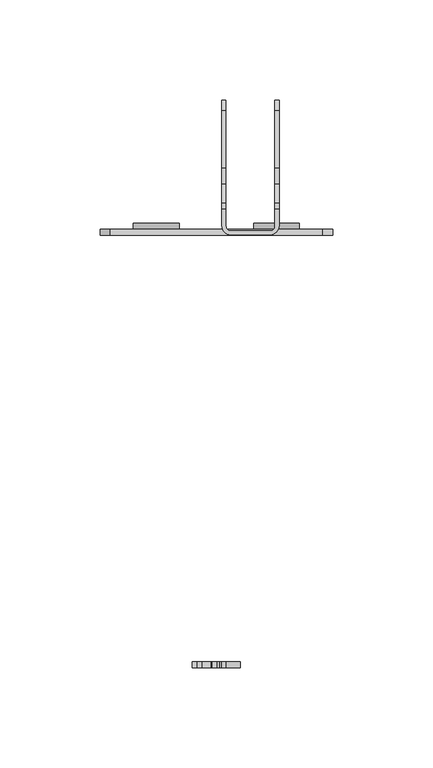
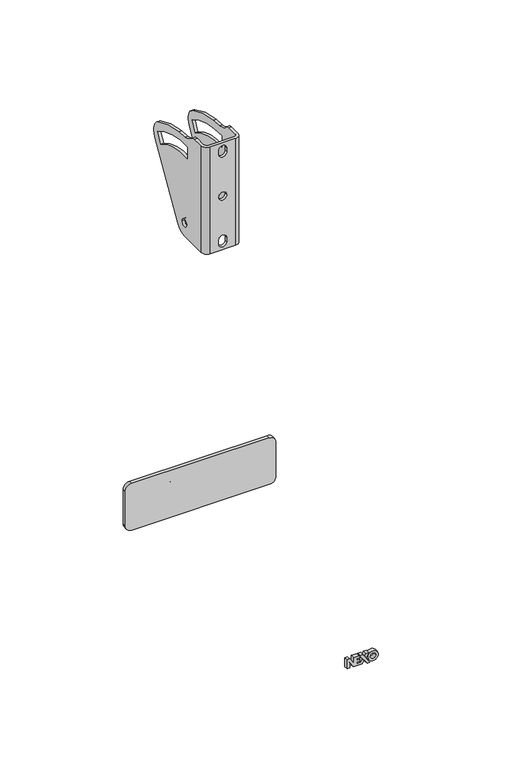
"""IFC4 building model written with IfcOpenShell, lengths in millimetres: proxy geometry."""

from ifc_helpers import new_model, si_unit, point, frame, frame_2d, origin, place, context, project, spatial, polyline, circle_curve, trimmed, segment, composite_curve, outline, extrude, source, transform, mapped, element, save
from ifc_brep_helpers import plane_surface, cylinder_surface, revolved_surface, advanced_brep


def generic_models_a4b86c65(model_context):
    return source(origin(), model_context, "Body", "SolidModel", [
        advanced_brep(
        [(14.25, -87.7767512, 46.1064927), (12.25, -87.7767512, 46.1064927), (12.25, -90.3716849, 47.0), (14.25, -90.3902878, 47.0), (-12.25, -87.7767512, 46.1064927), (-14.25, -87.7767512, 46.1064927), (-14.25, -90.3716849, 47.0), (-12.25, -90.3902878, 47.0), (14.25, -78.1254974, 41.1889332), (12.25, -78.1254974, 41.1889332), (-12.25, -78.1254974, 41.1889332), (-14.25, -78.1254974, 41.1889332), (14.25, -70.2644375, 40.7606486), (12.25, -70.2644375, 40.7606486), (-12.25, -70.2644375, 40.7606486), (-14.25, -70.2644375, 40.7606486), (14.25, -41.518081, 31.4203912), (12.25, -41.518081, 31.4203912), (-12.25, -41.518081, 31.4203912), (-14.25, -41.518081, 31.4203912), (14.25, -36.3035006, 23.4663297), (12.25, -36.3035006, 23.4663297), (-12.25, -36.3035006, 23.4663297), (-14.25, -36.3035006, 23.4663297), (14.25, -37.6729327, 17.0148555), (12.25, -37.6729327, 17.0148555), (12.25, -36.3035006, 21.1548402), (14.25, -36.3035006, 21.1548402), (-12.25, -37.6729327, 17.0148555), (-14.25, -37.6729327, 17.0148555), (-14.25, -36.3035006, 21.1548402), (-12.25, -36.3035006, 21.1548402), (14.25, -67.9331802, -34.7955433), (12.25, -67.9331802, -34.7955433), (-12.25, -67.9331802, -34.7955433), (-14.25, -67.9331802, -34.7955433), (14.25, -77.0, -40.0), (12.25, -77.0, -40.0), (-12.25, -77.0, -40.0), (-14.25, -77.0, -40.0), (12.25, -80.0, -29.5), (14.25, -80.0, -29.5), (14.25, -74.0, -29.5), (12.25, -74.0, -29.5), (-14.25, -80.0, -29.5), (-12.25, -80.0, -29.5), (-12.25, -74.0, -29.5), (-14.25, -74.0, -29.5), (-14.25, -99.0, 47.0), (-9.75, -103.5, 47.0), (9.75, -103.5, 47.0), (14.25, -99.0, 47.0), (12.25, -99.0, 47.0), (9.75, -101.5, 47.0), (-9.75, -101.5, 47.0), (-12.25, -99.0, 47.0), (-12.25, -99.0, -40.0), (-9.75, -101.5, -40.0), (9.75, -101.5, -40.0), (12.25, -99.0, -40.0), (14.25, -99.0, -40.0), (9.75, -103.5, -40.0), (-9.75, -103.5, -40.0), (-14.25, -99.0, -40.0), (-3.1, -103.5, 41.6), (3.1, -103.5, 41.6), (3.1, -103.5, 38.5), (-3.1, -103.5, 38.5), (3.1, -103.5, -31.4906202), (3.1, -103.5, -34.5906202), (-3.1, -103.5, -34.5906202), (-3.1, -103.5, -31.4906202), (3.1, -103.5, 3.4898915), (-3.1, -103.5, 3.4898915), (14.25, -36.2397525, 22.278058), (14.25, -41.2927077, 23.7144233), (14.25, -45.8031363, 15.9021317), (14.25, -81.0, 25.3556682), (14.25, -81.0, 34.55), (12.25, -36.3035006, 22.278058), (12.25, -45.8031363, 15.9021317), (12.25, -41.2927077, 23.7144233), (12.25, -81.0, 34.55), (12.25, -81.0, 25.3556682), (3.1, -101.5, 41.6), (-3.1, -101.5, 41.6), (-3.1, -101.5, 38.5), (3.1, -101.5, 38.5), (3.1, -101.5, -34.5906202), (3.1, -101.5, -31.4906202), (-3.1, -101.5, -31.4906202), (-3.1, -101.5, -34.5906202), (-3.1, -101.5, 3.4898915), (3.1, -101.5, 3.4898915), (-12.25, -36.2397525, 22.278058), (-12.25, -41.2927077, 23.7144233), (-12.25, -45.8031363, 15.9021317), (-12.25, -81.0, 25.3556682), (-12.25, -81.0, 34.55), (-14.25, -36.3035006, 22.278058), (-14.25, -45.8031363, 15.9021317), (-14.25, -41.2927077, 23.7144233), (-14.25, -81.0, 34.55), (-14.25, -81.0, 25.3556682)],
        [
            (0, 1),
            (1, 2, circle_curve(frame((12.25, -90.3809864, 42.7581156), z_axis=(1.0, 0.0, 0.0), x_axis=(0.0, 1.0, 0.0)), 4.2418946)),
            (2, 3),
            (3, 0, circle_curve(frame((14.25, -90.3809864, 42.7581156), z_axis=(-1.0, 0.0, 0.0), x_axis=(0.0, 1.0, 0.0)), 4.2418946)),
            (4, 5),
            (5, 6, circle_curve(frame((-14.25, -90.3809864, 42.7581156), z_axis=(1.0, 0.0, 0.0), x_axis=(0.0, 1.0, 0.0)), 4.2418946)),
            (6, 7),
            (7, 4, circle_curve(frame((-12.25, -90.3809864, 42.7581156), z_axis=(-1.0, 0.0, 0.0), x_axis=(0.0, 1.0, 0.0)), 4.2418946)),
            (0, 8, circle_curve(frame((14.25, -76.3075404, 56.6864806), z_axis=(1.0, 0.0, 0.0), x_axis=(0.0, 1.0, 0.0)), 15.6038118)),
            (8, 9),
            (9, 1, circle_curve(frame((12.25, -76.3075404, 56.6864806), z_axis=(-1.0, 0.0, 0.0), x_axis=(0.0, 1.0, 0.0)), 15.6038118)),
            (4, 10, circle_curve(frame((-12.25, -76.3075404, 56.6864806), z_axis=(1.0, 0.0, 0.0), x_axis=(0.0, 1.0, 0.0)), 15.6038118)),
            (10, 11),
            (11, 5, circle_curve(frame((-14.25, -76.3075404, 56.6864806), z_axis=(-1.0, 0.0, 0.0), x_axis=(0.0, 1.0, 0.0)), 15.6038118)),
            (8, 12),
            (12, 13),
            (13, 9),
            (10, 14),
            (14, 15),
            (15, 11),
            (12, 16, circle_curve(frame((14.25, -78.2021031, -32.5751969), z_axis=(-1.0, 0.0, 0.0), x_axis=(0.0, 1.0, 0.0)), 73.7641699)),
            (16, 17),
            (17, 13, circle_curve(frame((12.25, -78.2021031, -32.5751969), z_axis=(1.0, 0.0, 0.0), x_axis=(0.0, 1.0, 0.0)), 73.7641699)),
            (14, 18, circle_curve(frame((-12.25, -78.2021031, -32.5751969), z_axis=(-1.0, 0.0, 0.0), x_axis=(0.0, 1.0, 0.0)), 73.7641699)),
            (18, 19),
            (19, 15, circle_curve(frame((-14.25, -78.2021031, -32.5751969), z_axis=(1.0, 0.0, 0.0), x_axis=(0.0, 1.0, 0.0)), 73.7641699)),
            (16, 20, circle_curve(frame((14.25, -46.7400712, 22.3105849), z_axis=(-1.0, 0.0, 0.0), x_axis=(0.0, 1.0, 0.0)), 10.5003691)),
            (20, 21),
            (21, 17, circle_curve(frame((12.25, -46.7400712, 22.3105849), z_axis=(1.0, 0.0, 0.0), x_axis=(0.0, 1.0, 0.0)), 10.5003691)),
            (18, 22, circle_curve(frame((-12.25, -46.7400712, 22.3105849), z_axis=(-1.0, 0.0, 0.0), x_axis=(0.0, 1.0, 0.0)), 10.5003691)),
            (22, 23),
            (23, 19, circle_curve(frame((-14.25, -46.7400712, 22.3105849), z_axis=(1.0, 0.0, 0.0), x_axis=(0.0, 1.0, 0.0)), 10.5003691)),
            (24, 25),
            (25, 26, circle_curve(frame((12.25, -46.7400712, 22.3105849), z_axis=(1.0, 0.0, 0.0), x_axis=(0.0, 1.0, 0.0)), 10.5003691)),
            (26, 27),
            (27, 24, circle_curve(frame((14.25, -46.7400712, 22.3105849), z_axis=(-1.0, 0.0, 0.0), x_axis=(0.0, 1.0, 0.0)), 10.5003691)),
            (28, 29),
            (29, 30, circle_curve(frame((-14.25, -46.7400712, 22.3105849), z_axis=(1.0, 0.0, 0.0), x_axis=(0.0, 1.0, 0.0)), 10.5003691)),
            (30, 31),
            (31, 28, circle_curve(frame((-12.25, -46.7400712, 22.3105849), z_axis=(-1.0, 0.0, 0.0), x_axis=(0.0, 1.0, 0.0)), 10.5003691)),
            (24, 32),
            (32, 33),
            (33, 25),
            (28, 34),
            (34, 35),
            (35, 29),
            (32, 36, circle_curve(frame((14.25, -77.0, -29.5), z_axis=(-1.0, 0.0, 0.0), x_axis=(0.0, 1.0, 0.0)), 10.5)),
            (36, 37),
            (37, 33, circle_curve(frame((12.25, -77.0, -29.5), z_axis=(1.0, 0.0, 0.0), x_axis=(0.0, 1.0, 0.0)), 10.5)),
            (34, 38, circle_curve(frame((-12.25, -77.0, -29.5), z_axis=(-1.0, 0.0, 0.0), x_axis=(0.0, 1.0, 0.0)), 10.5)),
            (38, 39),
            (39, 35, circle_curve(frame((-14.25, -77.0, -29.5), z_axis=(1.0, 0.0, 0.0), x_axis=(0.0, 1.0, 0.0)), 10.5)),
            (40, 41),
            (41, 42, circle_curve(frame((14.25, -77.0, -29.5), z_axis=(1.0, 0.0, 0.0), x_axis=(0.0, 1.0, 0.0)), 3.0)),
            (42, 43),
            (43, 40, circle_curve(frame((12.25, -77.0, -29.5), z_axis=(-1.0, 0.0, 0.0), x_axis=(0.0, 1.0, 0.0)), 3.0)),
            (44, 45),
            (45, 46, circle_curve(frame((-12.25, -77.0, -29.5), z_axis=(1.0, 0.0, 0.0), x_axis=(0.0, 1.0, 0.0)), 3.0)),
            (46, 47),
            (47, 44, circle_curve(frame((-14.25, -77.0, -29.5), z_axis=(-1.0, 0.0, 0.0), x_axis=(0.0, 1.0, 0.0)), 3.0)),
            (40, 43, circle_curve(frame((12.25, -77.0, -29.5), z_axis=(-1.0, 0.0, 0.0), x_axis=(0.0, 1.0, 0.0)), 3.0)),
            (42, 41, circle_curve(frame((14.25, -77.0, -29.5), z_axis=(1.0, 0.0, 0.0), x_axis=(0.0, 1.0, 0.0)), 3.0)),
            (44, 47, circle_curve(frame((-14.25, -77.0, -29.5), z_axis=(-1.0, 0.0, 0.0), x_axis=(0.0, 1.0, 0.0)), 3.0)),
            (46, 45, circle_curve(frame((-12.25, -77.0, -29.5), z_axis=(1.0, 0.0, 0.0), x_axis=(0.0, 1.0, 0.0)), 3.0)),
            (48, 49, circle_curve(frame((-9.75, -99.0, 47.0), z_axis=(0.0, 0.0, 1.0), x_axis=(1.0, 0.0, 0.0)), 4.5)),
            (49, 50),
            (50, 51, circle_curve(frame((9.75, -99.0, 47.0), z_axis=(0.0, 0.0, 1.0), x_axis=(1.0, 0.0, 0.0)), 4.5)),
            (51, 3),
            (2, 52),
            (52, 53, circle_curve(frame((9.75, -99.0, 47.0), z_axis=(0.0, 0.0, -1.0), x_axis=(1.0, 0.0, 0.0)), 2.5)),
            (53, 54),
            (54, 55, circle_curve(frame((-9.75, -99.0, 47.0), z_axis=(0.0, 0.0, -1.0), x_axis=(1.0, 0.0, 0.0)), 2.5)),
            (55, 7),
            (6, 48),
            (56, 57, circle_curve(frame((-9.75, -99.0, -40.0), z_axis=(0.0, 0.0, 1.0), x_axis=(1.0, 0.0, 0.0)), 2.5)),
            (57, 58),
            (58, 59, circle_curve(frame((9.75, -99.0, -40.0), z_axis=(0.0, 0.0, 1.0), x_axis=(1.0, 0.0, 0.0)), 2.5)),
            (59, 37),
            (36, 60),
            (60, 61, circle_curve(frame((9.75, -99.0, -40.0), z_axis=(0.0, 0.0, -1.0), x_axis=(1.0, 0.0, 0.0)), 4.5)),
            (61, 62),
            (62, 63, circle_curve(frame((-9.75, -99.0, -40.0), z_axis=(0.0, 0.0, -1.0), x_axis=(1.0, 0.0, 0.0)), 4.5)),
            (63, 39),
            (38, 56),
            (49, 62),
            (61, 50),
            (64, 65, circle_curve(frame((0.0, -103.5, 41.6), z_axis=(0.0, 1.0, 0.0), x_axis=(1.0, 0.0, 0.0)), 3.1)),
            (65, 66),
            (66, 67, circle_curve(frame((0.0, -103.5, 38.5), z_axis=(0.0, 1.0, 0.0), x_axis=(1.0, 0.0, 0.0)), 3.1)),
            (67, 64),
            (68, 69),
            (69, 70, circle_curve(frame((0.0, -103.5, -34.5906202), z_axis=(0.0, 1.0, 0.0), x_axis=(1.0, 0.0, 0.0)), 3.1)),
            (70, 71),
            (71, 68, circle_curve(frame((0.0, -103.5, -31.4906202), z_axis=(0.0, 1.0, 0.0), x_axis=(1.0, 0.0, 0.0)), 3.1)),
            (72, 73, circle_curve(frame((0.0, -103.5, 3.4898915), z_axis=(0.0, 1.0, 0.0), x_axis=(1.0, 0.0, 0.0)), 3.1)),
            (73, 72, circle_curve(frame((0.0, -103.5, 3.4898915), z_axis=(0.0, 1.0, 0.0), x_axis=(1.0, 0.0, 0.0)), 3.1)),
            (51, 60),
            (27, 74),
            (74, 20),
            (75, 76),
            (76, 77, circle_curve(frame((14.25, -77.0093909, -30.0349635), z_axis=(1.0, 0.0, 0.0), x_axis=(0.0, 1.0, 0.0)), 55.5341971)),
            (77, 78),
            (78, 75, circle_curve(frame((14.25, -77.6772538, -31.4457619), z_axis=(-1.0, 0.0, 0.0), x_axis=(0.0, 1.0, 0.0)), 66.0793555)),
            (26, 79),
            (79, 21),
            (59, 52),
            (80, 81),
            (81, 82, circle_curve(frame((12.25, -77.6772538, -31.4457619), z_axis=(1.0, 0.0, 0.0), x_axis=(0.0, 1.0, 0.0)), 66.0793555)),
            (82, 83),
            (83, 80, circle_curve(frame((12.25, -77.0093909, -30.0349635), z_axis=(-1.0, 0.0, 0.0), x_axis=(0.0, 1.0, 0.0)), 55.5341971)),
            (53, 58),
            (57, 54),
            (84, 85, circle_curve(frame((0.0, -101.5, 41.6), z_axis=(0.0, -1.0, 0.0), x_axis=(1.0, 0.0, 0.0)), 3.1)),
            (85, 86),
            (86, 87, circle_curve(frame((0.0, -101.5, 38.5), z_axis=(0.0, -1.0, 0.0), x_axis=(1.0, 0.0, 0.0)), 3.1)),
            (87, 84),
            (88, 89),
            (89, 90, circle_curve(frame((0.0, -101.5, -31.4906202), z_axis=(0.0, -1.0, 0.0), x_axis=(1.0, 0.0, 0.0)), 3.1)),
            (90, 91),
            (91, 88, circle_curve(frame((0.0, -101.5, -34.5906202), z_axis=(0.0, -1.0, 0.0), x_axis=(1.0, 0.0, 0.0)), 3.1)),
            (92, 93, circle_curve(frame((0.0, -101.5, 3.4898915), z_axis=(0.0, -1.0, 0.0), x_axis=(1.0, 0.0, 0.0)), 3.1)),
            (93, 92, circle_curve(frame((0.0, -101.5, 3.4898915), z_axis=(0.0, -1.0, 0.0), x_axis=(1.0, 0.0, 0.0)), 3.1)),
            (55, 56),
            (31, 94),
            (94, 22),
            (95, 96),
            (96, 97, circle_curve(frame((-12.25, -77.0093909, -30.0349635), z_axis=(1.0, 0.0, 0.0), x_axis=(0.0, 1.0, 0.0)), 55.5341971)),
            (97, 98),
            (98, 95, circle_curve(frame((-12.25, -77.6772538, -31.4457619), z_axis=(-1.0, 0.0, 0.0), x_axis=(0.0, 1.0, 0.0)), 66.0793555)),
            (30, 99),
            (99, 23),
            (63, 48),
            (100, 101),
            (101, 102, circle_curve(frame((-14.25, -77.6772538, -31.4457619), z_axis=(1.0, 0.0, 0.0), x_axis=(0.0, 1.0, 0.0)), 66.0793555)),
            (102, 103),
            (103, 100, circle_curve(frame((-14.25, -77.0093909, -30.0349635), z_axis=(-1.0, 0.0, 0.0), x_axis=(0.0, 1.0, 0.0)), 55.5341971)),
            (84, 65),
            (64, 85),
            (67, 86),
            (66, 87),
            (88, 69),
            (68, 89),
            (71, 90),
            (70, 91),
            (92, 73),
            (72, 93),
            (80, 76),
            (75, 81),
            (100, 96),
            (95, 101),
            (78, 82),
            (98, 102),
            (77, 83),
            (97, 103),
        ],
        [
            cylinder_surface(frame((-20.0, -90.3809864, 42.7581156), z_axis=(-1.0, 0.0, 0.0), x_axis=(0.0, 1.0, 0.0)), 4.2418946),
            revolved_surface(polyline([(14.25, -60.70372859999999, 56.6864806), (12.25, -60.70372859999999, 56.6864806)]), (-20.0, -76.3075404, 56.6864806), (1.0, 0.0, 0.0)),
            revolved_surface(polyline([(-12.25, -60.70372859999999, 56.6864806), (-14.25, -60.70372859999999, 56.6864806)]), (-20.0, -76.3075404, 56.6864806), (1.0, 0.0, 0.0)),
            plane_surface(frame((20.0, -78.1254974, 41.1889332), z_axis=(0.0, 0.05440111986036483, 0.9985191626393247), x_axis=(-1.0, 0.0, 0.0))),
            cylinder_surface(frame((-20.0, -78.2021031, -32.5751969), z_axis=(-1.0, 0.0, 0.0), x_axis=(0.0, 1.0, 0.0)), 73.7641699),
            cylinder_surface(frame((-20.0, -46.7400712, 22.3105849), z_axis=(-1.0, 0.0, 0.0), x_axis=(0.0, 1.0, 0.0)), 10.5003691),
            plane_surface(frame((20.0, -37.6729327, 17.0148555), z_axis=(0.0, 0.8635066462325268, -0.504337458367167), x_axis=(-1.0, 0.0, 0.0))),
            cylinder_surface(frame((-20.0, -77.0, -29.5), z_axis=(-1.0, 0.0, 0.0), x_axis=(0.0, 1.0, 0.0)), 10.5),
            revolved_surface(polyline([(14.25, -74.0, -29.5), (12.25, -74.0, -29.5)]), (0.0, -77.0, -29.5), (1.0, 0.0, 0.0)),
            revolved_surface(polyline([(-12.25, -74.0, -29.5), (-14.25, -74.0, -29.5)]), (0.0, -77.0, -29.5), (1.0, 0.0, 0.0)),
            plane_surface(frame((-5.25, -99.0, 47.0), z_axis=(0.0, 0.0, 1.0), x_axis=(0.0, 1.0, 0.0))),
            plane_surface(frame((-5.25, -99.0, -40.0), z_axis=(0.0, 0.0, -1.0), x_axis=(0.0, -1.0, 0.0))),
            plane_surface(frame((-9.75, -103.5, 47.0), z_axis=(0.0, -1.0, 0.0), x_axis=(0.0, 0.0, -1.0))),
            plane_surface(frame((14.25, -99.0, 47.0), z_axis=(1.0, 0.0, 0.0), x_axis=(0.0, 0.0, -1.0))),
            plane_surface(frame((14.25, -36.3035006, 47.0), z_axis=(0.0, 1.0, 0.0), x_axis=(0.0, 0.0, -1.0))),
            plane_surface(frame((12.25, -36.3035006, 47.0), z_axis=(-1.0, 0.0, 0.0), x_axis=(0.0, 0.0, -1.0))),
            plane_surface(frame((9.75, -101.5, 47.0), z_axis=(0.0, 1.0, 0.0), x_axis=(0.0, 0.0, -1.0))),
            plane_surface(frame((-12.25, -99.0, 47.0), z_axis=(1.0, 0.0, 0.0), x_axis=(0.0, 0.0, -1.0))),
            plane_surface(frame((-12.25, -36.3035006, 47.0), z_axis=(0.0, 1.0, 0.0), x_axis=(0.0, 0.0, -1.0))),
            plane_surface(frame((-14.25, -36.3035006, 47.0), z_axis=(-1.0, 0.0, 0.0), x_axis=(0.0, 0.0, -1.0))),
            revolved_surface(polyline([(3.1, -103.5, 41.6), (3.1, -101.5, 41.6)]), (0.0, 0.0, 41.6), (0.0, -1.0, 0.0)),
            plane_surface(frame((-3.1, -103.5, 41.6), z_axis=(1.0, 0.0, 0.0), x_axis=(0.0, 1.0, 0.0))),
            revolved_surface(polyline([(3.1, -103.5, 38.5), (3.1, -101.5, 38.5)]), (0.0, 0.0, 38.5), (0.0, -1.0, 0.0)),
            plane_surface(frame((3.1, -103.5, 38.5), z_axis=(-1.0, 0.0, 0.0), x_axis=(0.0, 1.0, 0.0))),
            plane_surface(frame((3.1, -103.5, -34.5906202), z_axis=(-1.0, 0.0, 0.0), x_axis=(0.0, 1.0, 0.0))),
            revolved_surface(polyline([(3.1, -103.5, -31.4906202), (3.1, -101.5, -31.4906202)]), (0.0, 0.0, -31.4906202), (0.0, -1.0, 0.0)),
            plane_surface(frame((-3.1, -103.5, -31.4906202), z_axis=(1.0, 0.0, 0.0), x_axis=(0.0, 1.0, 0.0))),
            revolved_surface(polyline([(3.1, -103.5, -34.5906202), (3.1, -101.5, -34.5906202)]), (0.0, 0.0, -34.5906202), (0.0, -1.0, 0.0)),
            revolved_surface(polyline([(3.1, -103.5, 3.4898915), (3.1, -101.5, 3.4898915)]), (0.0, 0.0, 3.4898915), (0.0, -1.0, 0.0)),
            cylinder_surface(frame((-9.75, -99.0, -40.0), z_axis=(0.0, 0.0, 1.0), x_axis=(1.0, 0.0, 0.0)), 4.5),
            cylinder_surface(frame((9.75, -99.0, -40.0), z_axis=(0.0, 0.0, 1.0), x_axis=(1.0, 0.0, 0.0)), 4.5),
            revolved_surface(polyline([(12.25, -99.0, -40.0), (12.25, -99.0, 47.0)]), (9.75, -99.0, -40.0), (0.0, 0.0, -1.0)),
            revolved_surface(polyline([(-7.25, -99.0, -40.0), (-7.25, -99.0, 47.0)]), (-9.75, -99.0, -40.0), (0.0, 0.0, -1.0)),
            plane_surface(frame((20.0, -45.8031363, 15.9021317), z_axis=(0.0, -0.8660254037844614, 0.499999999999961), x_axis=(-1.0, 0.0, 0.0))),
            revolved_surface(polyline([(14.25, -11.597898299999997, -31.4457619), (12.25, -11.597898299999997, -31.4457619)]), (0.0, -77.6772538, -31.4457619), (1.0, 0.0, 0.0)),
            revolved_surface(polyline([(-12.25, -11.597898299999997, -31.4457619), (-14.25, -11.597898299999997, -31.4457619)]), (0.0, -77.6772538, -31.4457619), (1.0, 0.0, 0.0)),
            plane_surface(frame((20.0, -81.0, 34.55), z_axis=(0.0, 1.0, 0.0), x_axis=(-1.0, 0.0, 0.0))),
            cylinder_surface(frame((0.0, -77.0093909, -30.0349635), z_axis=(-1.0, 0.0, 0.0), x_axis=(0.0, 1.0, 0.0)), 55.5341971),
        ],
        [
            (0, [[1, 2, 3, 4]]),
            (0, [[5, 6, 7, 8]]),
            (1, [[-1, 9, 10, 11]]),
            (2, [[-5, 12, 13, 14]]),
            (3, [[-10, 15, 16, 17]]),
            (3, [[-13, 18, 19, 20]]),
            (4, [[-16, 21, 22, 23]]),
            (4, [[-19, 24, 25, 26]]),
            (5, [[-22, 27, 28, 29]]),
            (5, [[-25, 30, 31, 32]]),
            (5, [[33, 34, 35, 36]]),
            (5, [[37, 38, 39, 40]]),
            (6, [[-33, 41, 42, 43]]),
            (6, [[-37, 44, 45, 46]]),
            (7, [[-42, 47, 48, 49]]),
            (7, [[-45, 50, 51, 52]]),
            (8, [[53, 54, 55, 56]]),
            (9, [[57, 58, 59, 60]]),
            (8, [[-53, 61, -55, 62]]),
            (9, [[-57, 63, -59, 64]]),
            (10, [[65, 66, 67, 68, -3, 69, 70, 71, 72, 73, -7, 74]]),
            (11, [[75, 76, 77, 78, -48, 79, 80, 81, 82, 83, -51, 84]]),
            (12, [[-66, 85, -81, 86], [87, 88, 89, 90], [91, 92, 93, 94], [95, 96]]),
            (13, [[97, -79, -47, -41, -36, 98, 99, -27, -21, -15, -9, -4, -68], [-54, -62], [100, 101, 102, 103]]),
            (14, [[-98, -35, 104, 105, -28, -99]]),
            (15, [[106, -69, -2, -11, -17, -23, -29, -105, -104, -34, -43, -49, -78], [-56, -61], [107, 108, 109, 110]]),
            (16, [[-71, 111, -76, 112], [113, 114, 115, 116], [117, 118, 119, 120], [121, 122]]),
            (17, [[123, -84, -50, -44, -40, 124, 125, -30, -24, -18, -12, -8, -73], [-58, -64], [126, 127, 128, 129]]),
            (18, [[-124, -39, 130, 131, -31, -125]]),
            (19, [[132, -74, -6, -14, -20, -26, -32, -131, -130, -38, -46, -52, -83], [-60, -63], [133, 134, 135, 136]]),
            (20, [[137, -87, 138, -113]]),
            (21, [[-138, -90, 139, -114]]),
            (22, [[-139, -89, 140, -115]]),
            (23, [[-137, -116, -140, -88]]),
            (24, [[141, -91, 142, -117]]),
            (25, [[-142, -94, 143, -118]]),
            (26, [[-143, -93, 144, -119]]),
            (27, [[-141, -120, -144, -92]]),
            (28, [[145, -95, 146, -121]]),
            (28, [[-145, -122, -146, -96]]),
            (29, [[-65, -132, -82, -85]]),
            (30, [[-67, -86, -80, -97]]),
            (31, [[-70, -106, -77, -111]]),
            (32, [[-72, -112, -75, -123]]),
            (33, [[147, -100, 148, -107]]),
            (33, [[149, -126, 150, -133]]),
            (34, [[-148, -103, 151, -108]]),
            (35, [[-150, -129, 152, -134]]),
            (36, [[-151, -102, 153, -109]]),
            (36, [[-152, -128, 154, -135]]),
            (37, [[-147, -110, -153, -101]]),
            (37, [[-149, -136, -154, -127]]),
        ],
    ),
        extrude(outline(composite_curve([segment(trimmed(circle_curve(frame_2d((-236.6908532, -8.9250368)), 3.9406238), [point((-236.6908532, -12.8656607))], [point((-236.6908532, -4.984413))], False, "CARTESIAN"), True, "CONTINUOUS"), segment(trimmed(circle_curve(frame_2d((-236.6908532, -8.9250368)), 3.9406238), [point((-236.6908532, -4.984413))], [point((-236.6908532, -12.8656607))], False, "CARTESIAN"), True, "CONTINUOUS")], self_intersect=False), holes=[composite_curve([segment(trimmed(circle_curve(frame_2d((-236.6908532, -8.9250368)), 2.0681078), [point((-236.6908532, -10.9931446))], [point((-236.6908532, -6.8569291))], True, "CARTESIAN"), True, "CONTINUOUS"), segment(trimmed(circle_curve(frame_2d((-236.6908532, -8.9250368)), 2.0681078), [point((-236.6908532, -6.8569291))], [point((-236.6908532, -10.9931446))], True, "CARTESIAN"), True, "CONTINUOUS")], self_intersect=False)]), frame((0.0, -319.5, 0.0), z_axis=(0.0, 1.0, 0.0), x_axis=(0.0, 0.0, 1.0)), (0.0, 0.0, 1.0), 3.0),
        extrude(outline(polyline([(-233.0200152, -28.9364103), (-240.2997822, -28.9364103), (-240.2997822, -27.0440431), (-236.134452, -27.0440431), (-240.2997822, -24.2689461), (-240.2997822, -17.4180364), (-238.4248111, -16.0994641), (-236.8252777, -17.1628412), (-238.6971178, -18.5323838), (-238.6971178, -21.5660131), (-237.4428304, -21.5660131), (-237.4428304, -19.2829003), (-235.8401002, -19.2829003), (-235.8401002, -21.5660131), (-234.6235969, -21.5660131), (-234.6235969, -19.1589384), (-233.8235969, -19.1589384), (-233.0208667, -19.6925972), (-233.0208667, -23.9609732), (-237.4709227, -23.9706648), (-233.0200152, -26.909931), (-233.0200152, -28.9364103)])), frame((0.0, -319.5, 0.0), z_axis=(0.0, 1.0, 0.0), x_axis=(0.0, 0.0, 1.0)), (0.0, 0.0, 1.0), 3.0),
        extrude(outline(polyline([(-233.0200152, -19.0512821), (-241.2609621, -13.5726629), (-241.2609621, -11.3794602), (-233.0200152, -16.8580794), (-233.0200152, -19.0512821)])), frame((0.0, -319.5, 0.0), z_axis=(0.0, 1.0, 0.0), x_axis=(0.0, 0.0, 1.0)), (0.0, 0.0, 1.0), 3.0),
        extrude(outline(polyline([(-233.0200152, -12.310648), (-233.0200152, -14.6374386), (-234.2879721, -15.3852329), (-235.918866, -14.3010071), (-233.0200152, -12.310648)])), frame((0.0, -319.5, 0.0), z_axis=(0.0, 1.0, 0.0), x_axis=(0.0, 0.0, 1.0)), (0.0, 0.0, 1.0), 3.0),
        extrude(outline(composite_curve([segment(trimmed(circle_curve(frame_2d((-224.9609621, -47.0000576)), 11.4515227), [point((-224.9609621, -35.5485349))], [point((-224.9609621, -58.4515802))], False, "CARTESIAN"), True, "CONTINUOUS"), segment(trimmed(circle_curve(frame_2d((-224.9609621, -47.0000576)), 11.4515227), [point((-224.9609621, -58.4515802))], [point((-224.9609621, -35.5485349))], False, "CARTESIAN"), True, "CONTINUOUS")], self_intersect=False), holes=[composite_curve([segment(trimmed(circle_curve(frame_2d((-224.9609621, -47.0000576)), 5.0), [point((-224.9609621, -42.0000576))], [point((-224.9609621, -52.0000576))], True, "CARTESIAN"), True, "CONTINUOUS"), segment(trimmed(circle_curve(frame_2d((-224.9609621, -47.0000576)), 5.0), [point((-224.9609621, -52.0000576))], [point((-224.9609621, -42.0000576))], True, "CARTESIAN"), True, "CONTINUOUS")], self_intersect=False)]), frame((0.0, -100.5, 0.0), z_axis=(0.0, 1.0, 0.0), x_axis=(0.0, 0.0, 1.0)), (0.0, 0.0, 1.0), 3.0),
        extrude(outline(composite_curve([segment(trimmed(circle_curve(frame_2d((-224.9609621, 12.9999424)), 11.4515227), [point((-224.9609621, 24.4514651))], [point((-224.9609621, 1.5484198))], False, "CARTESIAN"), True, "CONTINUOUS"), segment(trimmed(circle_curve(frame_2d((-224.9609621, 12.9999424)), 11.4515227), [point((-224.9609621, 1.5484198))], [point((-224.9609621, 24.4514651))], False, "CARTESIAN"), True, "CONTINUOUS")], self_intersect=False), holes=[composite_curve([segment(trimmed(circle_curve(frame_2d((-224.9609621, 12.9999424)), 5.0), [point((-224.9609621, 17.9999424))], [point((-224.9609621, 7.9999424))], True, "CARTESIAN"), True, "CONTINUOUS"), segment(trimmed(circle_curve(frame_2d((-224.9609621, 12.9999424)), 5.0), [point((-224.9609621, 7.9999424))], [point((-224.9609621, 17.9999424))], True, "CARTESIAN"), True, "CONTINUOUS")], self_intersect=False)]), frame((0.0, -100.5, 0.0), z_axis=(0.0, 1.0, 0.0), x_axis=(0.0, 0.0, 1.0)), (0.0, 0.0, 1.0), 3.0),
        extrude(outline(composite_curve([segment(polyline([(-205.9609621, 35.9999424), (-205.9609621, -70.0000576)]), True, "CONTINUOUS"), segment(trimmed(circle_curve(frame_2d((-210.9609621, -70.0000576)), 5.0), [point((-205.9609621, -70.0000576))], [point((-210.9609621, -75.0000576))], False, "CARTESIAN"), True, "CONTINUOUS"), segment(polyline([(-210.9609621, -75.0000576), (-238.9609621, -75.0000576)]), True, "CONTINUOUS"), segment(trimmed(circle_curve(frame_2d((-238.9609621, -70.0000576)), 5.0), [point((-238.9609621, -75.0000576))], [point((-243.9609621, -70.0000576))], False, "CARTESIAN"), True, "CONTINUOUS"), segment(polyline([(-243.9609621, -70.0000576), (-243.9609621, 35.9999424)]), True, "CONTINUOUS"), segment(trimmed(circle_curve(frame_2d((-238.9609621, 35.9999424)), 5.0), [point((-243.9609621, 35.9999424))], [point((-238.9609621, 40.9999424))], False, "CARTESIAN"), True, "CONTINUOUS"), segment(polyline([(-238.9609621, 40.9999424), (-210.9609621, 40.9999424)]), True, "CONTINUOUS"), segment(trimmed(circle_curve(frame_2d((-210.9609621, 35.9999424)), 5.0), [point((-210.9609621, 40.9999424))], [point((-205.9609621, 35.9999424))], False, "CARTESIAN"), True, "CONTINUOUS")], self_intersect=False)), frame((0.0, -103.5, 0.0), z_axis=(0.0, 1.0, 0.0), x_axis=(0.0, 0.0, 1.0)), (0.0, 0.0, 1.0), 3.0),
    ])


if __name__ == "__main__":
    model = new_model("IFC4")
    model_context = context("Model", 3, world=origin())
    ifc_project = project(units=[si_unit("LENGTHUNIT", "METRE", prefix="MILLI")], contexts=[model_context])
    site = spatial("IfcSite", under=ifc_project)
    building = spatial("IfcBuilding", under=site)
    placement = place(None, origin())
    generic_models_shape = generic_models_a4b86c65(model_context)
    element("IfcBuildingElementProxy", 1, Name="Generic Models", at=placement, inside=building, context=model_context, shape_type="MappedRepresentation", body=[
        mapped(generic_models_shape, transform((0.0, 0.0, 0.0), x_axis=(1.0, 0.0, 0.0), y_axis=(0.0, 1.0, 0.0), z_axis=(0.0, 0.0, 1.0))),
    ])
    save(model, "model.ifc")
